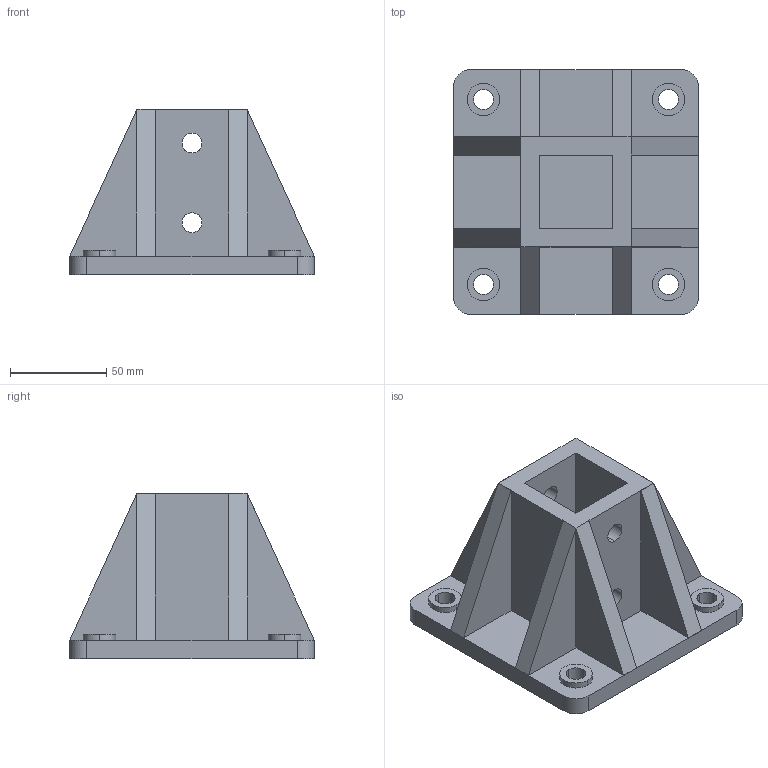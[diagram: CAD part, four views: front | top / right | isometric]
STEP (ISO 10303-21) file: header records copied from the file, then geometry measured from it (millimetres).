
FILE_DESCRIPTION(('TurboCAD Mac Pro'),'Build 980');
FILE_NAME('F20PU-5854.stp',' ',(''),(''),'ACIS Interop','IMSI','TurboCAD Mac Pro BY IMSI, INCORPORATED');
FILE_SCHEMA(('automotive_design'));
Length unit declared in the file: inch
Products named in the file (3): 1; 2; 3
Bounding box: 127 x 127.01 x 85.73 mm (x, y, z)
Volume: 388048.1 mm3; surface area: 94169.6 mm2
Topology: 3 solids, 3 shells, 102 faces, 256 edges, 166 vertices
Faces by surface type: bspline 52, plane 50
Entity records: 4198 total; most frequent: CARTESIAN_POINT 1203, ORIENTED_EDGE 512, DIRECTION 258, EDGE_CURVE 256, VERTEX_POINT 166, LINE 152, VECTOR 152, EDGE_LOOP 124
